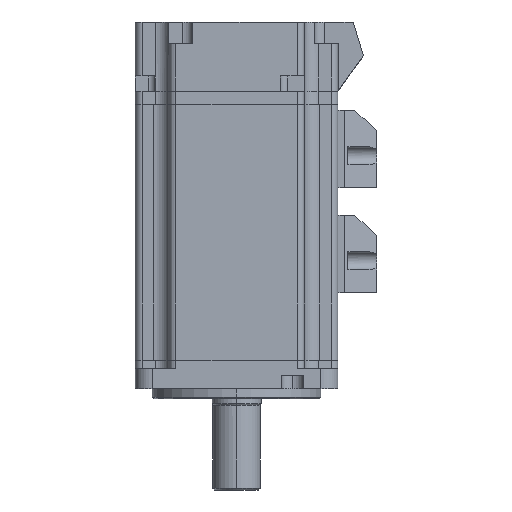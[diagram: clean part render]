
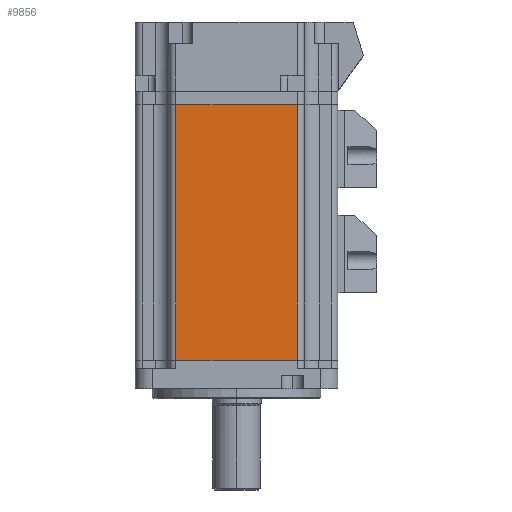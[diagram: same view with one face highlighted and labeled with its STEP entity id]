
A CAD part, left-side view. The second image highlights one B-rep face of the part: STEP entity #9856.
In plain terms, the highlighted planar face has unit normal (-1, 0, 0).
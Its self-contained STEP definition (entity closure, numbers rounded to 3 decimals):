
#350 = CARTESIAN_POINT ( 'NONE',  ( -30., 18., -37.85 ) ) ;
#399 = CARTESIAN_POINT ( 'NONE',  ( -30., -18., 37.85 ) ) ;
#689 = DIRECTION ( 'NONE',  ( 0., 1., 0. ) ) ;
#939 = VERTEX_POINT ( 'NONE', #10671 ) ;
#1193 = ORIENTED_EDGE ( 'NONE', *, *, #9310, .T. ) ;
#1407 = VERTEX_POINT ( 'NONE', #8033 ) ;
#2296 = LINE ( 'NONE', #10931, #17146 ) ;
#2894 = FACE_OUTER_BOUND ( 'NONE', #17483, .T. ) ;
#5038 = VERTEX_POINT ( 'NONE', #7380 ) ;
#5651 = CARTESIAN_POINT ( 'NONE',  ( -30., 0., 37.85 ) ) ;
#6124 = VECTOR ( 'NONE', #11923, 1000. ) ;
#7380 = CARTESIAN_POINT ( 'NONE',  ( -30., 18., -37.85 ) ) ;
#8033 = CARTESIAN_POINT ( 'NONE',  ( -30., -18., -37.85 ) ) ;
#9310 = EDGE_CURVE ( 'NONE', #1407, #939, #10210, .T. ) ;
#9717 = EDGE_CURVE ( 'NONE', #939, #18761, #16992, .T. ) ;
#9856 = ADVANCED_FACE ( 'NONE', ( #2894 ), #18815, .T. ) ;
#10210 = LINE ( 'NONE', #399, #18528 ) ;
#10671 = CARTESIAN_POINT ( 'NONE',  ( -30., -18., 37.85 ) ) ;
#10931 = CARTESIAN_POINT ( 'NONE',  ( -30., 0., -37.85 ) ) ;
#11923 = DIRECTION ( 'NONE',  ( 0., 1., 0. ) ) ;
#12850 = DIRECTION ( 'NONE',  ( -1., 0., 0. ) ) ;
#13470 = DIRECTION ( 'NONE',  ( 0., 0., 1. ) ) ;
#13519 = LINE ( 'NONE', #350, #21001 ) ;
#14329 = ORIENTED_EDGE ( 'NONE', *, *, #20692, .F. ) ;
#15140 = DIRECTION ( 'NONE',  ( 0., 0., -1. ) ) ;
#15591 = DIRECTION ( 'NONE',  ( 0., -1., 0. ) ) ;
#16126 = ORIENTED_EDGE ( 'NONE', *, *, #9717, .T. ) ;
#16263 = ORIENTED_EDGE ( 'NONE', *, *, #17677, .T. ) ;
#16560 = CARTESIAN_POINT ( 'NONE',  ( -30., 18., 37.85 ) ) ;
#16992 = LINE ( 'NONE', #20229, #6124 ) ;
#17146 = VECTOR ( 'NONE', #689, 1000. ) ;
#17483 = EDGE_LOOP ( 'NONE', ( #14329, #1193, #16126, #16263 ) ) ;
#17677 = EDGE_CURVE ( 'NONE', #18761, #5038, #13519, .T. ) ;
#18528 = VECTOR ( 'NONE', #13470, 1000. ) ;
#18761 = VERTEX_POINT ( 'NONE', #16560 ) ;
#18815 = PLANE ( 'NONE',  #20633 ) ;
#20229 = CARTESIAN_POINT ( 'NONE',  ( -30., 0., 37.85 ) ) ;
#20633 = AXIS2_PLACEMENT_3D ( 'NONE', #5651, #12850, #15591 ) ;
#20692 = EDGE_CURVE ( 'NONE', #1407, #5038, #2296, .T. ) ;
#21001 = VECTOR ( 'NONE', #15140, 1000. ) ;
